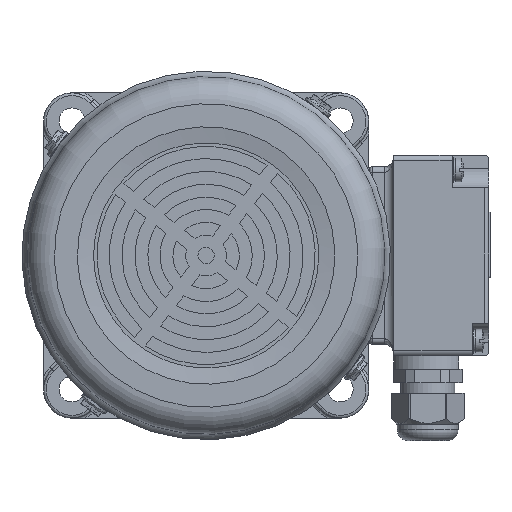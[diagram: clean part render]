
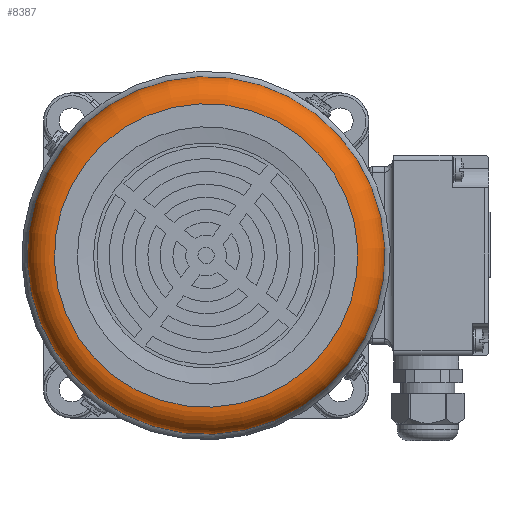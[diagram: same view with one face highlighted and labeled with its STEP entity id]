
A CAD part, left-side view. The second image highlights one B-rep face of the part: STEP entity #8387.
In plain terms, the highlighted toroidal (fillet/blend) face has major radius 56 mm and minor radius 10 mm.
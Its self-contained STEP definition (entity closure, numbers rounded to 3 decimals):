
#1710=TOROIDAL_SURFACE('',#37427,56.,10.);
#7053=FACE_BOUND('',#13524,.T.);
#7054=FACE_BOUND('',#13525,.T.);
#8387=ADVANCED_FACE('',(#7053,#7054),#1710,.T.);
#13524=EDGE_LOOP('',(#20341));
#13525=EDGE_LOOP('',(#20342));
#20341=ORIENTED_EDGE('',*,*,#31420,.T.);
#20342=ORIENTED_EDGE('',*,*,#29728,.F.);
#25968=VERTEX_POINT('',#54196);
#27076=VERTEX_POINT('',#60863);
#29728=EDGE_CURVE('',#25968,#25968,#33862,.T.);
#31420=EDGE_CURVE('',#27076,#27076,#34459,.T.);
#33862=CIRCLE('',#36271,56.);
#34459=CIRCLE('',#37426,66.);
#36271=AXIS2_PLACEMENT_3D('',#54195,#41738,#41739);
#37426=AXIS2_PLACEMENT_3D('',#60862,#44858,#44859);
#37427=AXIS2_PLACEMENT_3D('',#60864,#44860,#44861);
#41738=DIRECTION('',(-1.,0.,0.));
#41739=DIRECTION('',(0.,-0.609,0.793));
#44858=DIRECTION('',(-1.,0.,0.));
#44859=DIRECTION('',(0.,-0.609,0.793));
#44860=DIRECTION('',(-1.,0.,0.));
#44861=DIRECTION('',(0.,-0.609,0.793));
#54195=CARTESIAN_POINT('',(-218.447,376.872,-315.672));
#54196=CARTESIAN_POINT('',(-218.447,342.781,-271.244));
#60862=CARTESIAN_POINT('',(-208.447,376.872,-315.672));
#60863=CARTESIAN_POINT('',(-208.447,336.694,-263.311));
#60864=CARTESIAN_POINT('',(-208.447,376.872,-315.672));
